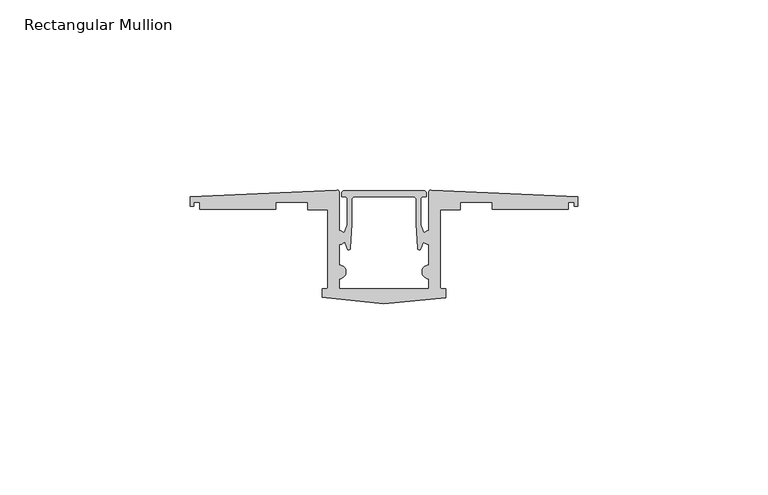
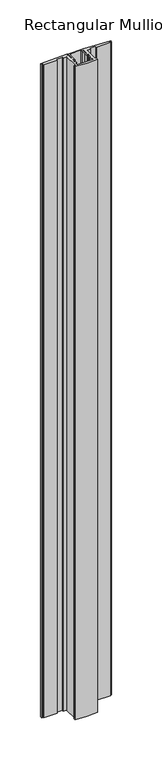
"""IFC4 building model written with IfcOpenShell, lengths in millimetres: member geometry, Rectangular Mullion : TE-H-01_03_Joint HF102."""

from ifc_helpers import new_model, si_unit, point, frame, frame_2d, origin, place, context, project, spatial, polyline, circle_curve, trimmed, segment, composite_curve, outline, extrude, source, transform, mapped, element, save


def rectangular_mullion_bab87d59(model_context):
    return source(origin(), model_context, "Body", "SweptSolid", [
        extrude(outline(composite_curve([segment(polyline([(16.3, -20.7636928), (16.3, -23.0943093)]), True, "CONTINUOUS"), segment(trimmed(circle_curve(frame_2d((0.3778425, 55.077345)), 79.7767048), [point((16.3, -23.0943093))], [point((-16.3, -22.9365782))], False, "CARTESIAN"), True, "CONTINUOUS"), segment(polyline([(-16.3, -22.9365782), (-16.3, -20.7636928), (-15.35, -20.7636928)]), True, "CONTINUOUS"), segment(trimmed(circle_curve(frame_2d((-15.35, -20.2136928)), 0.55), [point((-15.35, -20.7636928))], [point((-14.8, -20.2136928))], True, "CARTESIAN"), True, "CONTINUOUS"), segment(polyline([(-14.8, -20.2136928), (-14.8, 0.0), (-20.0, 0.0), (-20.0, 2.0), (-28.4182257, 2.0), (-28.4182257, 0.2), (-48.4182257, 0.2), (-48.4182257, 2.0), (-50.0239552, 2.0), (-50.0239552, 1.0305469), (-51.002067, 1.0305469), (-51.002067, 3.421028), (-12.3757889, 5.2341639)]), True, "CONTINUOUS"), segment(trimmed(circle_curve(frame_2d((-12.35, 4.6847689)), 0.55), [point((-12.3757889, 5.2341639))], [point((-11.8, 4.6847689))], False, "CARTESIAN"), True, "CONTINUOUS"), segment(polyline([(-11.8, 4.6847689), (-11.8, -5.4634871)]), True, "CONTINUOUS"), segment(trimmed(circle_curve(frame_2d((-11.8, -7.2634871)), 1.8), [point((-11.8, -5.4634871))], [point((-10.4804437, -6.039244))], False, "CARTESIAN"), True, "CONTINUOUS"), segment(polyline([(-10.4804437, -6.039244), (-9.7126284, -3.8448708), (-9.7126284, 2.9982227)]), True, "CONTINUOUS"), segment(trimmed(circle_curve(frame_2d((-10.2626284, 2.9982227)), 0.55), [point((-9.7126284, 2.9982227))], [point((-10.2626284, 3.5482227))], True, "CARTESIAN"), True, "CONTINUOUS"), segment(polyline([(-10.2626284, 3.5482227), (-11.0624892, 3.5482227), (-11.0624892, 4.4982227)]), True, "CONTINUOUS"), segment(trimmed(circle_curve(frame_2d((-10.5124892, 4.4982227)), 0.55), [point((-11.0624892, 4.4982227))], [point((-10.5124892, 5.0482227))], False, "CARTESIAN"), True, "CONTINUOUS"), segment(polyline([(-10.5124892, 5.0482227), (10.5124892, 5.0482227)]), True, "CONTINUOUS"), segment(trimmed(circle_curve(frame_2d((10.5124892, 4.4982227)), 0.55), [point((10.5124892, 5.0482227))], [point((11.0624892, 4.4982227))], False, "CARTESIAN"), True, "CONTINUOUS"), segment(polyline([(11.0624892, 4.4982227), (11.0624892, 3.5482227), (10.2626284, 3.5482227)]), True, "CONTINUOUS"), segment(trimmed(circle_curve(frame_2d((10.2626284, 2.9982227)), 0.55), [point((10.2626284, 3.5482227))], [point((9.7126284, 2.9982227))], True, "CARTESIAN"), True, "CONTINUOUS"), segment(polyline([(9.7126284, 2.9982227), (9.7126284, -3.8448708), (10.4433575, -5.9332537)]), True, "CONTINUOUS"), segment(trimmed(circle_curve(frame_2d((11.8, -7.2634871)), 1.9), [point((10.4433575, -5.9332537))], [point((10.3404276, -8.4798952))], True, "CARTESIAN"), True, "CONTINUOUS"), segment(polyline([(10.3404276, -8.4798952), (9.6235002, -10.2360599)]), True, "CONTINUOUS"), segment(trimmed(circle_curve(frame_2d((9.2715591, -10.0931911)), 0.3798342), [point((9.6235002, -10.2360599))], [point((8.8921936, -10.1120555))], False, "CARTESIAN"), True, "CONTINUOUS"), segment(polyline([(8.8921936, -10.1120555), (8.5126282, -3.7696514), (8.5126282, 2.5482227)]), True, "CONTINUOUS"), segment(trimmed(circle_curve(frame_2d((7.5126282, 2.5482227)), 1.0), [point((8.5126282, 2.5482227))], [point((7.5126282, 3.5482227))], True, "CARTESIAN"), True, "CONTINUOUS"), segment(polyline([(7.5126282, 3.5482227), (-7.5126282, 3.5482227)]), True, "CONTINUOUS"), segment(trimmed(circle_curve(frame_2d((-7.5126282, 2.5482227)), 1.0), [point((-7.5126282, 3.5482227))], [point((-8.5126282, 2.5482227))], True, "CARTESIAN"), True, "CONTINUOUS"), segment(polyline([(-8.5126282, 2.5482227), (-8.5126282, -3.7696514), (-8.8921936, -10.1120555)]), True, "CONTINUOUS"), segment(trimmed(circle_curve(frame_2d((-9.2715591, -10.0931911)), 0.3798342), [point((-8.8921936, -10.1120555))], [point((-9.6235001, -10.23606))], False, "CARTESIAN"), True, "CONTINUOUS"), segment(polyline([(-9.6235001, -10.23606), (-10.3835688, -8.3742178)]), True, "CONTINUOUS"), segment(trimmed(circle_curve(frame_2d((-11.8, -7.2634871)), 1.8), [point((-10.3835688, -8.3742178))], [point((-11.8, -9.0634871))], False, "CARTESIAN"), True, "CONTINUOUS"), segment(polyline([(-11.8, -9.0634871), (-11.8, -14.4634871)]), True, "CONTINUOUS"), segment(trimmed(circle_curve(frame_2d((-11.8, -16.2634871)), 1.8), [point((-11.8, -14.4634871))], [point((-11.8, -18.0634871))], False, "CARTESIAN"), True, "CONTINUOUS"), segment(polyline([(-11.8, -18.0634871), (-11.8, -20.7636928), (11.8, -20.7636928), (11.8, -18.0634871)]), True, "CONTINUOUS"), segment(trimmed(circle_curve(frame_2d((11.8, -16.2634871)), 1.8), [point((11.8, -18.0634871))], [point((11.8, -14.4634871))], False, "CARTESIAN"), True, "CONTINUOUS"), segment(polyline([(11.8, -14.4634871), (11.8, -9.0634871)]), True, "CONTINUOUS"), segment(trimmed(circle_curve(frame_2d((11.8, -7.2634871)), 1.8), [point((11.8, -9.0634871))], [point((11.8, -5.4634871))], False, "CARTESIAN"), True, "CONTINUOUS"), segment(polyline([(11.8, -5.4634871), (11.8, 4.6847689)]), True, "CONTINUOUS"), segment(trimmed(circle_curve(frame_2d((12.35, 4.6847689)), 0.55), [point((11.8, 4.6847689))], [point((12.3757889, 5.2341639))], False, "CARTESIAN"), True, "CONTINUOUS"), segment(polyline([(12.3757889, 5.2341639), (51.002067, 3.421028), (51.002067, 1.0305469), (50.0239552, 1.0305469), (50.0239552, 2.0), (48.4182257, 2.0), (48.4182257, 0.2), (28.4182257, 0.2), (28.4182257, 2.0), (20.0, 2.0), (20.0, 0.0), (14.8, 0.0), (14.8, -20.2136928)]), True, "CONTINUOUS"), segment(trimmed(circle_curve(frame_2d((15.35, -20.2136928)), 0.55), [point((14.8, -20.2136928))], [point((15.35, -20.7636928))], True, "CARTESIAN"), True, "CONTINUOUS"), segment(polyline([(15.35, -20.7636928), (16.3, -20.7636928)]), True, "CONTINUOUS")], self_intersect=False)), frame((0.0, 0.0, -1000.0), z_axis=(0.0, 0.0, 1.0), x_axis=(1.0, 0.0, 0.0)), (0.0, 0.0, 1.0), 1000.0),
    ])


if __name__ == "__main__":
    model = new_model("IFC4")
    model_context = context("Model", 3, world=origin())
    ifc_project = project(units=[si_unit("LENGTHUNIT", "METRE", prefix="MILLI")], contexts=[model_context])
    site = spatial("IfcSite", under=ifc_project)
    building = spatial("IfcBuilding", under=site)
    placement = place(None, origin())
    rectangular_mullion_shape = rectangular_mullion_bab87d59(model_context)
    element("IfcMember", 1, ObjectType="Rectangular Mullion : TE-H-01_03_Joint HF102", at=placement, inside=building, context=model_context, shape_type="MappedRepresentation", body=[
        mapped(rectangular_mullion_shape, transform((0.0, 0.0, 0.0), x_axis=(1.0, 0.0, 0.0), y_axis=(0.0, 1.0, 0.0), z_axis=(0.0, 0.0, 1.0))),
    ])
    save(model, "model.ifc")
